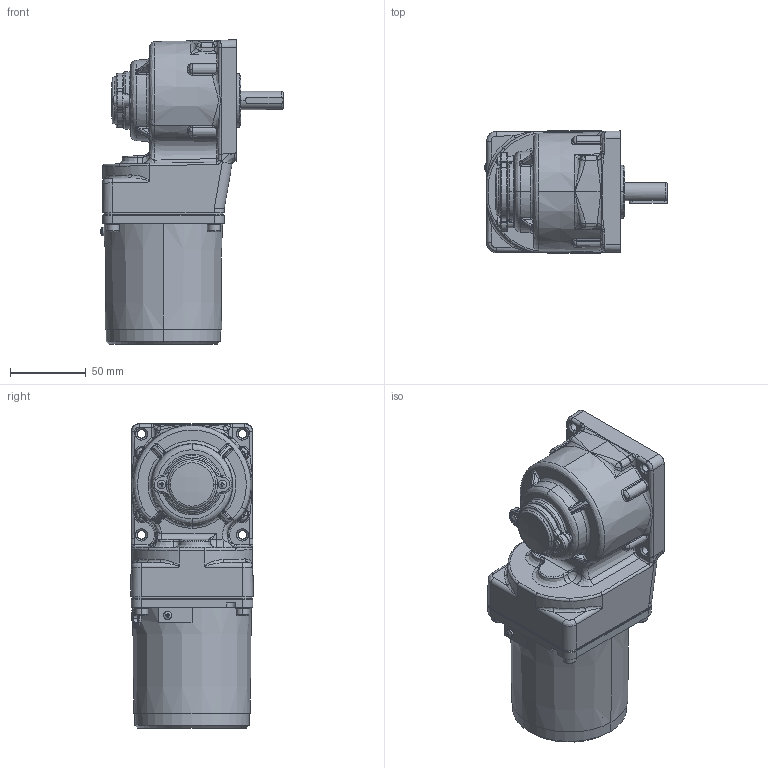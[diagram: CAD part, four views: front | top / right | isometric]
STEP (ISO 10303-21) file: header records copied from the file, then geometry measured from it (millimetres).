
FILE_DESCRIPTION (( 'STEP AP203' ), '1' );
FILE_NAME ('4IK25GN-C(4GN3RT-180RT)ÐÂ.stp', '2022-02-21T07:39:19', ( 'PC' ), ( 'Microsoft' ), 'SwSTEP 2.0', 'SolidWorks 2014', '' );
FILE_SCHEMA (( 'CONFIG_CONTROL_DESIGN' ));
Length unit declared in the file: millimetre
Products named in the file (12): 80眻褒眊裔; zd-4gn1000rc-504-001-20211209（PROE导出的版本）; 80妗陑怀堤粣; 80壔裔; 80綴傷裔; hexagon socket head cap screws gb_GB_FASTENER_SCREWS_HSHCS M4X12-N; cross recessed pan head screws gb_GB_CROSS_SCREWS_TYPE1 M3X6-6  H type-N; 4IK25GN-C_5; 90HXQ; M5X20-S; PRT0006; 4IK25GN-C(4GN3RT-180RT)陔
Assembly tree (18 placements, depth 2):
  4IK25GN-C(4GN3RT-180RT)陔
    80眻褒眊裔
    zd-4gn1000rc-504-001-20211209（PROE导出的版本）
    80妗陑怀堤粣
    80壔裔
    80綴傷裔
    hexagon socket head cap screws gb_GB_FASTENER_SCREWS_HSHCS M4X12-N  x4
    cross recessed pan head screws gb_GB_CROSS_SCREWS_TYPE1 M3X6-6  H type-N  x2
    4IK25GN-C_5
    90HXQ
    M5X20-S  x4
    PRT0006
Bounding box: 120.31 x 80.6 x 200.47 mm (x, y, z)
Volume: 704613.5 mm3; surface area: 149997.7 mm2
Topology: 18 solids, 18 shells, 2396 faces, 5534 edges, 3138 vertices
Faces by surface type: cone 903, cylinder 659, bspline 462, plane 362, torus 8, sphere 2
Entity records: 75435 total; most frequent: CARTESIAN_POINT 42811, ORIENTED_EDGE 7160, DIRECTION 5587, EDGE_CURVE 3580, AXIS2_PLACEMENT_3D 2195, VERTEX_POINT 2118, EDGE_LOOP 1638, ADVANCED_FACE 1544
